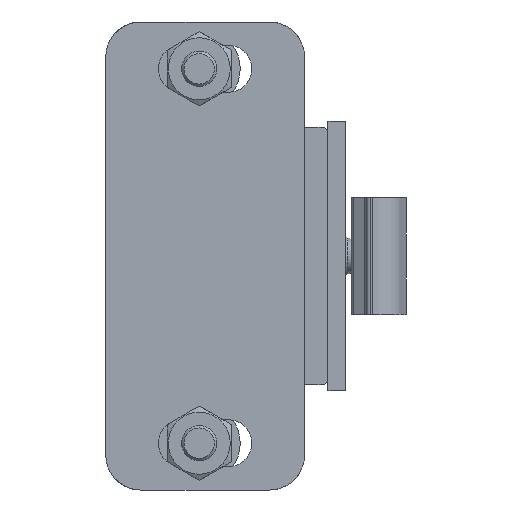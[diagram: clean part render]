
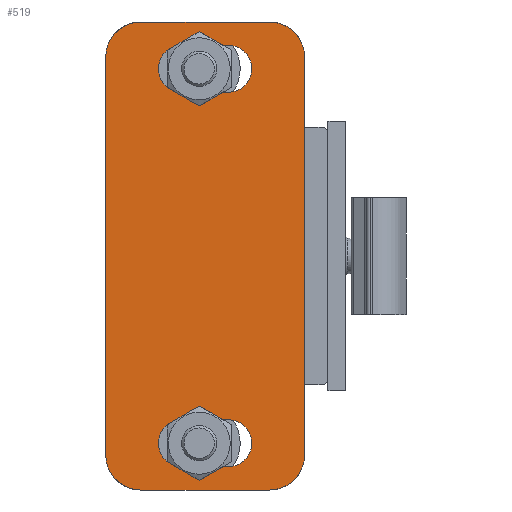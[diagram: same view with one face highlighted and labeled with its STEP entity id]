
A CAD part, left-side view. The second image highlights one B-rep face of the part: STEP entity #519.
In plain terms, the highlighted planar face has unit normal (-1, 0, 0) as drawn and (0, -1, 0) by its records, which use the part's own axes.
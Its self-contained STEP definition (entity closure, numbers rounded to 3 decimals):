
#519=ADVANCED_FACE('',(#1012,#1013,#1014),#1015,.F.);
#1012=FACE_BOUND('',#1609,.T.);
#1013=FACE_OUTER_BOUND('',#1610,.T.);
#1014=FACE_BOUND('',#1611,.T.);
#1015=PLANE('',#1612);
#1609=EDGE_LOOP('',(#2400,#2401,#2402,#2403));
#1610=EDGE_LOOP('',(#2404,#2405,#2406,#2407,#2408,#2409,#2410,#2411));
#1611=EDGE_LOOP('',(#2412,#2413,#2414,#2415));
#1612=AXIS2_PLACEMENT_3D('',#2416,#2417,#2418);
#2400=ORIENTED_EDGE('',*,*,#3748,.F.);
#2401=ORIENTED_EDGE('',*,*,#3720,.F.);
#2402=ORIENTED_EDGE('',*,*,#3724,.F.);
#2403=ORIENTED_EDGE('',*,*,#3730,.F.);
#2404=ORIENTED_EDGE('',*,*,#3612,.F.);
#2405=ORIENTED_EDGE('',*,*,#3752,.T.);
#2406=ORIENTED_EDGE('',*,*,#3619,.F.);
#2407=ORIENTED_EDGE('',*,*,#3692,.T.);
#2408=ORIENTED_EDGE('',*,*,#3726,.F.);
#2409=ORIENTED_EDGE('',*,*,#3716,.F.);
#2410=ORIENTED_EDGE('',*,*,#3629,.F.);
#2411=ORIENTED_EDGE('',*,*,#3669,.T.);
#2412=ORIENTED_EDGE('',*,*,#3734,.F.);
#2413=ORIENTED_EDGE('',*,*,#3739,.F.);
#2414=ORIENTED_EDGE('',*,*,#3743,.F.);
#2415=ORIENTED_EDGE('',*,*,#3746,.F.);
#2416=CARTESIAN_POINT('',(0.,0.0,19.0));
#2417=DIRECTION('',(0.0,1.0,0.0));
#2418=DIRECTION('',(0.0,0.0,1.0));
#3612=EDGE_CURVE('',#4207,#4209,#4210,.T.);
#3619=EDGE_CURVE('',#4220,#4222,#4223,.T.);
#3629=EDGE_CURVE('',#4237,#4239,#4240,.T.);
#3669=EDGE_CURVE('',#4237,#4209,#4300,.T.);
#3692=EDGE_CURVE('',#4220,#4334,#4336,.T.);
#3716=EDGE_CURVE('',#4239,#4365,#4366,.T.);
#3720=EDGE_CURVE('',#4369,#4371,#4372,.T.);
#3724=EDGE_CURVE('',#4375,#4369,#4377,.T.);
#3726=EDGE_CURVE('',#4365,#4334,#4379,.T.);
#3730=EDGE_CURVE('',#4382,#4375,#4384,.T.);
#3734=EDGE_CURVE('',#4389,#4391,#4392,.T.);
#3739=EDGE_CURVE('',#4397,#4389,#4399,.T.);
#3743=EDGE_CURVE('',#4403,#4397,#4405,.T.);
#3746=EDGE_CURVE('',#4391,#4403,#4408,.T.);
#3748=EDGE_CURVE('',#4371,#4382,#4410,.T.);
#3752=EDGE_CURVE('',#4207,#4222,#4414,.T.);
#4207=VERTEX_POINT('',#5097);
#4209=VERTEX_POINT('',#5100);
#4210=CIRCLE('',#5101,3.0);
#4220=VERTEX_POINT('',#5125);
#4222=VERTEX_POINT('',#5128);
#4223=CIRCLE('',#5129,3.);
#4237=VERTEX_POINT('',#5172);
#4239=VERTEX_POINT('',#5175);
#4240=CIRCLE('',#5176,3.0);
#4300=LINE('',#5258,#5259);
#4334=VERTEX_POINT('',#5305);
#4336=LINE('',#5308,#5309);
#4365=VERTEX_POINT('',#5351);
#4366=LINE('',#5352,#5353);
#4369=VERTEX_POINT('',#5357);
#4371=VERTEX_POINT('',#5360);
#4372=CIRCLE('',#5361,2.0);
#4375=VERTEX_POINT('',#5365);
#4377=LINE('',#5368,#5369);
#4379=CIRCLE('',#5371,3.);
#4382=VERTEX_POINT('',#5374);
#4384=CIRCLE('',#5377,2.0);
#4389=VERTEX_POINT('',#5383);
#4391=VERTEX_POINT('',#5386);
#4392=LINE('',#5387,#5388);
#4397=VERTEX_POINT('',#5394);
#4399=CIRCLE('',#5397,2.0);
#4403=VERTEX_POINT('',#5402);
#4405=LINE('',#5405,#5406);
#4408=CIRCLE('',#5409,2.0);
#4410=LINE('',#5411,#5412);
#4414=LINE('',#5416,#5417);
#5097=CARTESIAN_POINT('',(0.,0.0,14.0));
#5100=CARTESIAN_POINT('',(3.,0.,17.0));
#5101=AXIS2_PLACEMENT_3D('',#6406,#6407,#6408);
#5125=CARTESIAN_POINT('',(3.,0.0,0.));
#5128=CARTESIAN_POINT('',(0.,0.0,3.0));
#5129=AXIS2_PLACEMENT_3D('',#6417,#6418,#6419);
#5172=CARTESIAN_POINT('',(37.0,0.,17.0));
#5175=CARTESIAN_POINT('',(40.0,0.0,14.0));
#5176=AXIS2_PLACEMENT_3D('',#6427,#6428,#6429);
#5258=CARTESIAN_POINT('',(40.0,0.,17.0));
#5259=VECTOR('',#6476,1.0);
#5305=CARTESIAN_POINT('',(37.0,0.0,0.0));
#5308=CARTESIAN_POINT('',(0.,0.0,0.0));
#5309=VECTOR('',#6502,1.0);
#5351=CARTESIAN_POINT('',(40.0,0.0,3.));
#5352=CARTESIAN_POINT('',(40.0,0.0,19.0));
#5353=VECTOR('',#6522,1.0);
#5357=CARTESIAN_POINT('',(2.,0.0,6.5));
#5360=CARTESIAN_POINT('',(6.,0.0,6.5));
#5361=AXIS2_PLACEMENT_3D('',#6525,#6526,#6527);
#5365=CARTESIAN_POINT('',(2.,0.0,10.5));
#5368=CARTESIAN_POINT('',(2.,0.0,10.5));
#5369=VECTOR('',#6530,1.0);
#5371=AXIS2_PLACEMENT_3D('',#6531,#6532,#6533);
#5374=CARTESIAN_POINT('',(6.,0.0,10.5));
#5377=AXIS2_PLACEMENT_3D('',#6538,#6539,#6540);
#5383=CARTESIAN_POINT('',(34.0,0.0,10.5));
#5386=CARTESIAN_POINT('',(34.0,0.0,6.5));
#5387=CARTESIAN_POINT('',(34.0,0.0,10.5));
#5388=VECTOR('',#6543,1.0);
#5394=CARTESIAN_POINT('',(38.0,0.0,10.5));
#5397=AXIS2_PLACEMENT_3D('',#6549,#6550,#6551);
#5402=CARTESIAN_POINT('',(38.0,0.0,6.5));
#5405=CARTESIAN_POINT('',(38.0,0.0,6.5));
#5406=VECTOR('',#6554,1.0);
#5409=AXIS2_PLACEMENT_3D('',#6558,#6559,#6560);
#5411=CARTESIAN_POINT('',(6.,0.0,6.5));
#5412=VECTOR('',#6561,1.0);
#5416=CARTESIAN_POINT('',(0.,0.0,19.0));
#5417=VECTOR('',#6562,1.0);
#6406=CARTESIAN_POINT('',(3.,0.0,14.0));
#6407=DIRECTION('',(-0.0,1.0,0.0));
#6408=DIRECTION('',(1.0,0.0,0.0));
#6417=CARTESIAN_POINT('',(3.,0.0,3.));
#6418=DIRECTION('',(-0.0,1.0,0.0));
#6419=DIRECTION('',(1.0,0.0,0.0));
#6427=CARTESIAN_POINT('',(37.0,0.0,14.0));
#6428=DIRECTION('',(-0.0,1.0,0.0));
#6429=DIRECTION('',(1.0,0.0,0.0));
#6476=DIRECTION('',(-1.0,0.0,0.0));
#6502=DIRECTION('',(1.0,0.0,0.0));
#6522=DIRECTION('',(0.0,0.0,-1.0));
#6525=CARTESIAN_POINT('',(4.,0.0,6.5));
#6526=DIRECTION('',(0.0,-1.0,0.0));
#6527=DIRECTION('',(-1.0,0.0,0.0));
#6530=DIRECTION('',(0.0,0.0,-1.0));
#6531=CARTESIAN_POINT('',(37.0,0.0,3.));
#6532=DIRECTION('',(-0.0,1.0,0.0));
#6533=DIRECTION('',(1.0,0.0,0.0));
#6538=CARTESIAN_POINT('',(4.,0.0,10.5));
#6539=DIRECTION('',(0.0,-1.0,0.0));
#6540=DIRECTION('',(-1.0,0.0,0.0));
#6543=DIRECTION('',(0.0,0.0,-1.0));
#6549=CARTESIAN_POINT('',(36.0,0.0,10.5));
#6550=DIRECTION('',(0.0,-1.0,0.0));
#6551=DIRECTION('',(-1.0,0.0,0.0));
#6554=DIRECTION('',(0.0,0.0,1.0));
#6558=CARTESIAN_POINT('',(36.0,0.0,6.5));
#6559=DIRECTION('',(0.0,-1.0,0.0));
#6560=DIRECTION('',(-1.0,0.0,0.0));
#6561=DIRECTION('',(0.0,0.0,1.0));
#6562=DIRECTION('',(0.0,0.0,-1.0));
